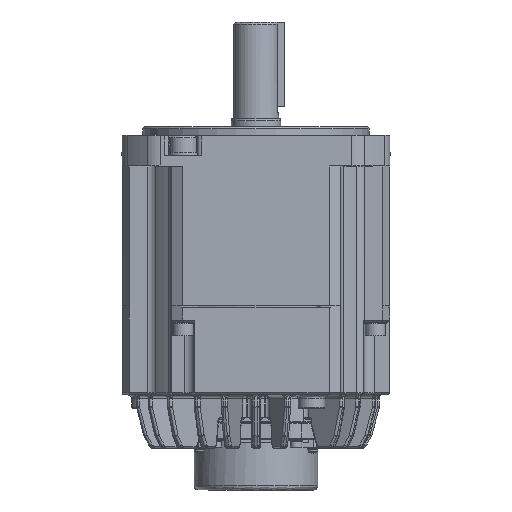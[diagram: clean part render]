
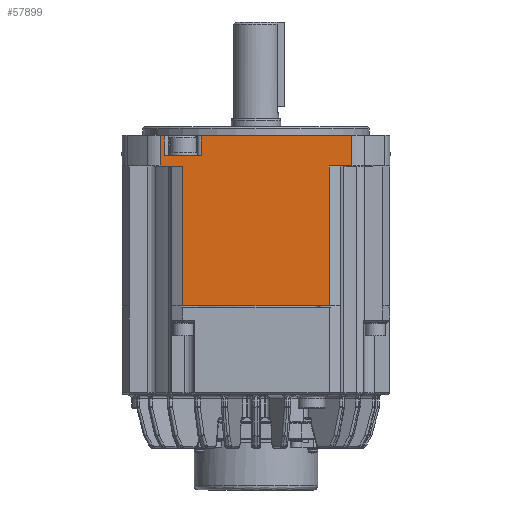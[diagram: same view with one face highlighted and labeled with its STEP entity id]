
A CAD part, front view. The second image highlights one B-rep face of the part: STEP entity #57899.
In plain terms, the highlighted planar face has unit normal (0, 1, 0).
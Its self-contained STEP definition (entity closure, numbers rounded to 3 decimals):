
#2807 = VECTOR ( 'NONE', #130192, 1000. ) ;
#4836 = DIRECTION ( 'NONE',  ( 1., 0., 0. ) ) ;
#4845 = ORIENTED_EDGE ( 'NONE', *, *, #132623, .T. ) ;
#4983 = VERTEX_POINT ( 'NONE', #27950 ) ;
#5176 = EDGE_CURVE ( 'NONE', #74852, #121765, #76243, .T. ) ;
#5588 = DIRECTION ( 'NONE',  ( 0., 0., -1. ) ) ;
#8247 = DIRECTION ( 'NONE',  ( 1., 0., 0. ) ) ;
#8996 = CARTESIAN_POINT ( 'NONE',  ( 254.473, 14.942, 70.787 ) ) ;
#9489 = DIRECTION ( 'NONE',  ( -1., 0., 0. ) ) ;
#9671 = ORIENTED_EDGE ( 'NONE', *, *, #131896, .T. ) ;
#12100 = VERTEX_POINT ( 'NONE', #32779 ) ;
#13346 = VECTOR ( 'NONE', #41960, 1000. ) ;
#13905 = CARTESIAN_POINT ( 'NONE',  ( 263.473, 14.942, 80.287 ) ) ;
#16670 = EDGE_CURVE ( 'NONE', #26074, #113759, #54941, .T. ) ;
#17079 = CARTESIAN_POINT ( 'NONE',  ( 252.508, 14.942, 80.287 ) ) ;
#18195 = ORIENTED_EDGE ( 'NONE', *, *, #16670, .T. ) ;
#18850 = VECTOR ( 'NONE', #43156, 1000. ) ;
#19342 = ORIENTED_EDGE ( 'NONE', *, *, #76943, .T. ) ;
#24255 = LINE ( 'NONE', #134860, #83542 ) ;
#25517 = ORIENTED_EDGE ( 'NONE', *, *, #68197, .T. ) ;
#26074 = VERTEX_POINT ( 'NONE', #66689 ) ;
#27950 = CARTESIAN_POINT ( 'NONE',  ( 334.474, 14.942, -2.213 ) ) ;
#28182 = CARTESIAN_POINT ( 'NONE',  ( 298.973, 14.942, -2.213 ) ) ;
#28797 = LINE ( 'NONE', #73242, #91878 ) ;
#28962 = DIRECTION ( 'NONE',  ( 0., 0., 1. ) ) ;
#29027 = VERTEX_POINT ( 'NONE', #99062 ) ;
#30063 = CARTESIAN_POINT ( 'NONE',  ( 345.438, 14.942, 65.787 ) ) ;
#30212 = VERTEX_POINT ( 'NONE', #148173 ) ;
#31196 = CARTESIAN_POINT ( 'NONE',  ( 345.438, 14.942, 80.487 ) ) ;
#32681 = CARTESIAN_POINT ( 'NONE',  ( 345.438, 14.942, -2.213 ) ) ;
#32779 = CARTESIAN_POINT ( 'NONE',  ( 272.473, 14.942, 80.487 ) ) ;
#33867 = LINE ( 'NONE', #35810, #61562 ) ;
#35810 = CARTESIAN_POINT ( 'NONE',  ( 272.473, 14.942, 80.287 ) ) ;
#41960 = DIRECTION ( 'NONE',  ( -1., 0., 0. ) ) ;
#43156 = DIRECTION ( 'NONE',  ( 1., 0., 0. ) ) ;
#44247 = CARTESIAN_POINT ( 'NONE',  ( 252.508, 14.942, 65.787 ) ) ;
#44660 = ORIENTED_EDGE ( 'NONE', *, *, #82724, .T. ) ;
#45310 = CARTESIAN_POINT ( 'NONE',  ( 345.438, 14.942, 80.487 ) ) ;
#45420 = DIRECTION ( 'NONE',  ( 0., 0., -1. ) ) ;
#48673 = LINE ( 'NONE', #92371, #115497 ) ;
#48894 = VECTOR ( 'NONE', #120841, 1000. ) ;
#49778 = CARTESIAN_POINT ( 'NONE',  ( 345.438, 14.942, 65.787 ) ) ;
#51226 = VECTOR ( 'NONE', #96760, 1000. ) ;
#52598 = LINE ( 'NONE', #49778, #48894 ) ;
#53402 = VECTOR ( 'NONE', #92258, 1000. ) ;
#54941 = LINE ( 'NONE', #13905, #51226 ) ;
#56446 = CARTESIAN_POINT ( 'NONE',  ( 261.685, 14.942, 70.787 ) ) ;
#57127 = DIRECTION ( 'NONE',  ( 0., 0., -1. ) ) ;
#57583 = VERTEX_POINT ( 'NONE', #146420 ) ;
#57899 = ADVANCED_FACE ( 'NONE', ( #59395 ), #80519, .T. ) ;
#59395 = FACE_OUTER_BOUND ( 'NONE', #75095, .T. ) ;
#61562 = VECTOR ( 'NONE', #130609, 1000. ) ;
#65880 = LINE ( 'NONE', #17079, #125332 ) ;
#66689 = CARTESIAN_POINT ( 'NONE',  ( 263.473, 14.942, -2.213 ) ) ;
#67223 = CARTESIAN_POINT ( 'NONE',  ( 345.438, 14.942, 70.787 ) ) ;
#68197 = EDGE_CURVE ( 'NONE', #29027, #57583, #152291, .T. ) ;
#68580 = CARTESIAN_POINT ( 'NONE',  ( 345.438, 14.942, 80.287 ) ) ;
#69628 = CARTESIAN_POINT ( 'NONE',  ( 334.474, 14.942, 65.787 ) ) ;
#70645 = LINE ( 'NONE', #31196, #18850 ) ;
#71493 = VERTEX_POINT ( 'NONE', #73977 ) ;
#73242 = CARTESIAN_POINT ( 'NONE',  ( 254.473, 14.942, 80.287 ) ) ;
#73977 = CARTESIAN_POINT ( 'NONE',  ( 252.508, 14.942, 80.487 ) ) ;
#74852 = VERTEX_POINT ( 'NONE', #30063 ) ;
#75049 = VERTEX_POINT ( 'NONE', #56446 ) ;
#75095 = EDGE_LOOP ( 'NONE', ( #4845, #79858, #111797, #128523, #44660, #18195, #9671, #108058, #83978, #19342, #91908, #97418, #25517, #97586, #148245 ) ) ;
#76243 = LINE ( 'NONE', #137216, #13346 ) ;
#76943 = EDGE_CURVE ( 'NONE', #30212, #110445, #28797, .T. ) ;
#77189 = EDGE_CURVE ( 'NONE', #110445, #75049, #125214, .T. ) ;
#78816 = EDGE_CURVE ( 'NONE', #121765, #4983, #83712, .T. ) ;
#79858 = ORIENTED_EDGE ( 'NONE', *, *, #5176, .T. ) ;
#80519 = PLANE ( 'NONE',  #97731 ) ;
#82237 = VERTEX_POINT ( 'NONE', #44247 ) ;
#82724 = EDGE_CURVE ( 'NONE', #147486, #26074, #112789, .T. ) ;
#83542 = VECTOR ( 'NONE', #4836, 1000. ) ;
#83712 = LINE ( 'NONE', #147530, #111571 ) ;
#83978 = ORIENTED_EDGE ( 'NONE', *, *, #106616, .T. ) ;
#85572 = VECTOR ( 'NONE', #8247, 1000. ) ;
#90735 = EDGE_CURVE ( 'NONE', #82237, #71493, #65880, .T. ) ;
#91445 = LINE ( 'NONE', #116412, #150731 ) ;
#91878 = VECTOR ( 'NONE', #57127, 1000. ) ;
#91908 = ORIENTED_EDGE ( 'NONE', *, *, #77189, .T. ) ;
#92258 = DIRECTION ( 'NONE',  ( -1., 0., 0. ) ) ;
#92371 = CARTESIAN_POINT ( 'NONE',  ( 345.438, 14.942, -2.213 ) ) ;
#92477 = DIRECTION ( 'NONE',  ( 0., 0., 1. ) ) ;
#96760 = DIRECTION ( 'NONE',  ( 0., 0., 1. ) ) ;
#97418 = ORIENTED_EDGE ( 'NONE', *, *, #111641, .T. ) ;
#97586 = ORIENTED_EDGE ( 'NONE', *, *, #119272, .T. ) ;
#97731 = AXIS2_PLACEMENT_3D ( 'NONE', #68580, #115854, #92477 ) ;
#99062 = CARTESIAN_POINT ( 'NONE',  ( 265.262, 14.942, 70.787 ) ) ;
#99943 = CARTESIAN_POINT ( 'NONE',  ( 263.473, 14.942, 65.787 ) ) ;
#104930 = CARTESIAN_POINT ( 'NONE',  ( 345.438, 14.942, 80.487 ) ) ;
#106616 = EDGE_CURVE ( 'NONE', #71493, #30212, #145546, .T. ) ;
#108058 = ORIENTED_EDGE ( 'NONE', *, *, #90735, .T. ) ;
#110445 = VERTEX_POINT ( 'NONE', #8996 ) ;
#111571 = VECTOR ( 'NONE', #5588, 1000. ) ;
#111641 = EDGE_CURVE ( 'NONE', #75049, #29027, #24255, .T. ) ;
#111797 = ORIENTED_EDGE ( 'NONE', *, *, #78816, .T. ) ;
#112789 = LINE ( 'NONE', #32681, #53402 ) ;
#113759 = VERTEX_POINT ( 'NONE', #99943 ) ;
#114110 = VECTOR ( 'NONE', #128200, 1000. ) ;
#115497 = VECTOR ( 'NONE', #9489, 1000. ) ;
#115854 = DIRECTION ( 'NONE',  ( 0., 1., 0. ) ) ;
#116412 = CARTESIAN_POINT ( 'NONE',  ( 345.438, 14.942, 80.287 ) ) ;
#119272 = EDGE_CURVE ( 'NONE', #57583, #12100, #33867, .T. ) ;
#120403 = EDGE_CURVE ( 'NONE', #12100, #136627, #70645, .T. ) ;
#120841 = DIRECTION ( 'NONE',  ( -1., 0., 0. ) ) ;
#121765 = VERTEX_POINT ( 'NONE', #69628 ) ;
#125214 = LINE ( 'NONE', #142080, #2807 ) ;
#125332 = VECTOR ( 'NONE', #28962, 1000. ) ;
#128200 = DIRECTION ( 'NONE',  ( 1., 0., 0. ) ) ;
#128523 = ORIENTED_EDGE ( 'NONE', *, *, #144711, .T. ) ;
#130192 = DIRECTION ( 'NONE',  ( 1., 0., 0. ) ) ;
#130609 = DIRECTION ( 'NONE',  ( 0., 0., 1. ) ) ;
#131896 = EDGE_CURVE ( 'NONE', #113759, #82237, #52598, .T. ) ;
#132623 = EDGE_CURVE ( 'NONE', #136627, #74852, #91445, .T. ) ;
#134860 = CARTESIAN_POINT ( 'NONE',  ( 345.438, 14.942, 70.787 ) ) ;
#136627 = VERTEX_POINT ( 'NONE', #104930 ) ;
#137216 = CARTESIAN_POINT ( 'NONE',  ( 345.438, 14.942, 65.787 ) ) ;
#142080 = CARTESIAN_POINT ( 'NONE',  ( 345.438, 14.942, 70.787 ) ) ;
#144711 = EDGE_CURVE ( 'NONE', #4983, #147486, #48673, .T. ) ;
#145546 = LINE ( 'NONE', #45310, #114110 ) ;
#146420 = CARTESIAN_POINT ( 'NONE',  ( 272.473, 14.942, 70.787 ) ) ;
#147486 = VERTEX_POINT ( 'NONE', #28182 ) ;
#147530 = CARTESIAN_POINT ( 'NONE',  ( 334.474, 14.942, 80.287 ) ) ;
#148173 = CARTESIAN_POINT ( 'NONE',  ( 254.473, 14.942, 80.487 ) ) ;
#148245 = ORIENTED_EDGE ( 'NONE', *, *, #120403, .T. ) ;
#150731 = VECTOR ( 'NONE', #45420, 1000. ) ;
#152291 = LINE ( 'NONE', #67223, #85572 ) ;
